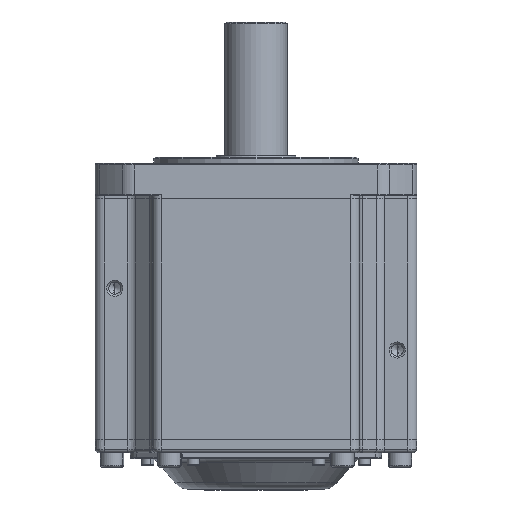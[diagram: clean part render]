
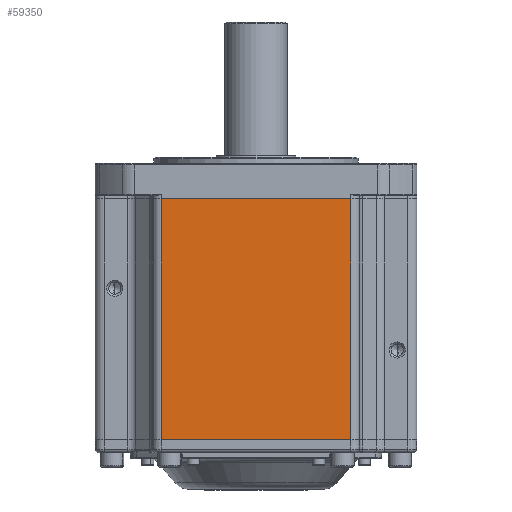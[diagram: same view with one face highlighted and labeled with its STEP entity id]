
A CAD part, front view. The second image highlights one B-rep face of the part: STEP entity #59350.
In plain terms, the highlighted planar face has unit normal (0, -1, 0).
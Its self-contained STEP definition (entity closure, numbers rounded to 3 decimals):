
#2677 = DIRECTION ( 'NONE',  ( 0., 0., 1. ) ) ;
#3252 = VECTOR ( 'NONE', #55740, 1000. ) ;
#3417 = DIRECTION ( 'NONE',  ( 0., 1., 0. ) ) ;
#3936 = ORIENTED_EDGE ( 'NONE', *, *, #5682, .T. ) ;
#5201 = VERTEX_POINT ( 'NONE', #30421 ) ;
#5682 = EDGE_CURVE ( 'NONE', #22336, #13727, #15995, .T. ) ;
#6947 = EDGE_LOOP ( 'NONE', ( #3936, #49536, #45585, #53087 ) ) ;
#8129 = PLANE ( 'NONE',  #46938 ) ;
#10574 = VERTEX_POINT ( 'NONE', #34422 ) ;
#11670 = VECTOR ( 'NONE', #61240, 1000. ) ;
#13727 = VERTEX_POINT ( 'NONE', #20087 ) ;
#15995 = LINE ( 'NONE', #36556, #52961 ) ;
#20087 = CARTESIAN_POINT ( 'NONE',  ( -52.974, -89.007, -31.273 ) ) ;
#22336 = VERTEX_POINT ( 'NONE', #43315 ) ;
#27125 = FACE_OUTER_BOUND ( 'NONE', #6947, .T. ) ;
#30421 = CARTESIAN_POINT ( 'NONE',  ( 53.026, -89.007, -31.273 ) ) ;
#31698 = CARTESIAN_POINT ( 'NONE',  ( 53.026, -89.007, -896.673 ) ) ;
#32631 = DIRECTION ( 'NONE',  ( 0., 0., -1. ) ) ;
#34422 = CARTESIAN_POINT ( 'NONE',  ( 53.026, -89.007, 103.327 ) ) ;
#36556 = CARTESIAN_POINT ( 'NONE',  ( -52.974, -89.007, -896.673 ) ) ;
#37023 = LINE ( 'NONE', #41253, #11670 ) ;
#37945 = EDGE_CURVE ( 'NONE', #13727, #5201, #37023, .T. ) ;
#41253 = CARTESIAN_POINT ( 'NONE',  ( -154.318, -89.007, -31.273 ) ) ;
#42508 = EDGE_CURVE ( 'NONE', #10574, #22336, #61742, .T. ) ;
#43315 = CARTESIAN_POINT ( 'NONE',  ( -52.974, -89.007, 103.327 ) ) ;
#45585 = ORIENTED_EDGE ( 'NONE', *, *, #51054, .T. ) ;
#46658 = VECTOR ( 'NONE', #2677, 1000. ) ;
#46938 = AXIS2_PLACEMENT_3D ( 'NONE', #52467, #3417, #32631 ) ;
#49003 = LINE ( 'NONE', #31698, #46658 ) ;
#49536 = ORIENTED_EDGE ( 'NONE', *, *, #37945, .T. ) ;
#51054 = EDGE_CURVE ( 'NONE', #5201, #10574, #49003, .T. ) ;
#52116 = CARTESIAN_POINT ( 'NONE',  ( 58.026, -89.007, 103.327 ) ) ;
#52467 = CARTESIAN_POINT ( 'NONE',  ( 58.026, -89.007, -896.673 ) ) ;
#52961 = VECTOR ( 'NONE', #55909, 1000. ) ;
#53087 = ORIENTED_EDGE ( 'NONE', *, *, #42508, .T. ) ;
#55740 = DIRECTION ( 'NONE',  ( -1., 0., 0. ) ) ;
#55909 = DIRECTION ( 'NONE',  ( 0., 0., -1. ) ) ;
#59350 = ADVANCED_FACE ( 'NONE', ( #27125 ), #8129, .F. ) ;
#61240 = DIRECTION ( 'NONE',  ( 1., 0., 0. ) ) ;
#61742 = LINE ( 'NONE', #52116, #3252 ) ;
